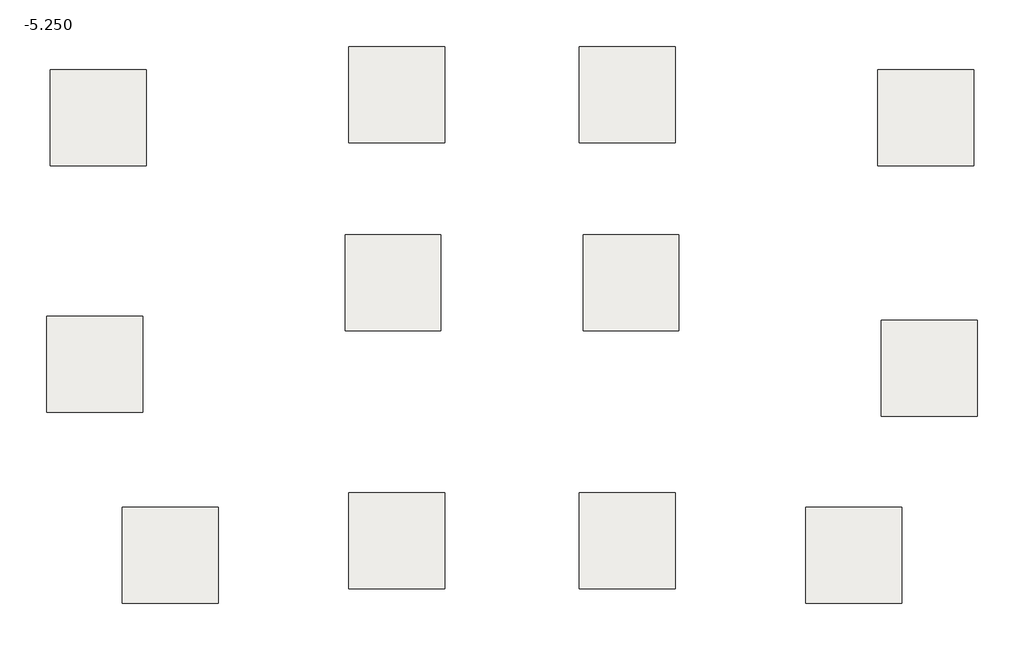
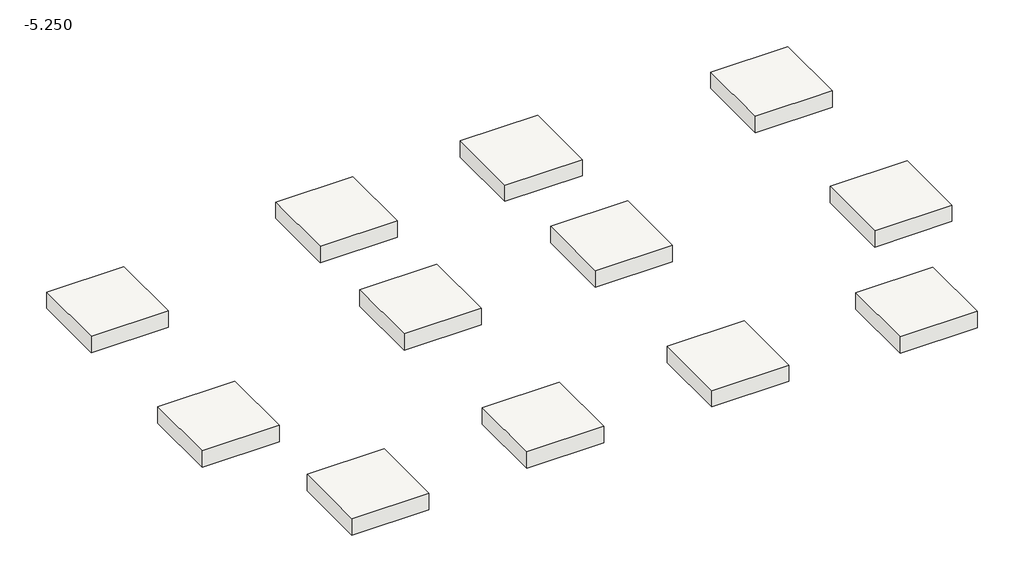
# One storey: 12 slabs.
"""IFC4 building model written with IfcOpenShell, lengths in millimetres."""

from ifc_helpers import new_model, si_unit, origin, place, context, project, spatial, transform, mapped, element, save
from components import dj_d551b5b0

model = new_model("IFC4")

# Units and contexts
model_context = context("Model", 3, world=origin())
ifc_project = project(units=[si_unit("LENGTHUNIT", "METRE", prefix="MILLI")], contexts=[model_context])

# Site, building, storey
site = spatial("IfcSite", under=ifc_project)
building = spatial("IfcBuilding", under=site)
storey = spatial("IfcBuildingStorey", under=building, Name="-5.250", Elevation=-5250.0)

# Slabs
placement = place(None, origin())
dj_shape = dj_d551b5b0(model_context)
element("IfcSlab", 1, ObjectType="独立基础 : DJ", at=placement, inside=storey, context=model_context, shape_type="MappedRepresentation", body=[
    mapped(dj_shape, transform((-7104.5197818, -893.9538269, -5250.0), x_axis=(0.0, 1.0000000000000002, 0.0), y_axis=(-1.0000000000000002, 0.0, 0.0), z_axis=(0.0, 0.0, 1.0))),
])
element("IfcSlab", 2, ObjectType="独立基础 : DJ", at=placement, inside=storey, context=model_context, shape_type="MappedRepresentation", body=[
    mapped(dj_shape, transform((-2144.5197818, -893.9538269, -5250.0), x_axis=(0.0, 1.0000000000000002, 0.0), y_axis=(-1.0000000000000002, 0.0, 0.0), z_axis=(0.0, 0.0, 1.0))),
])
element("IfcSlab", 3, ObjectType="独立基础 : DJ", at=placement, inside=storey, context=model_context, shape_type="MappedRepresentation", body=[
    mapped(dj_shape, transform((-13324.5197818, -2593.9538269, -5250.0), x_axis=(1.0, 0.0, 0.0), y_axis=(0.0, 1.0, 0.0), z_axis=(0.0, 0.0, 1.0))),
])
element("IfcSlab", 4, ObjectType="独立基础 : DJ", at=placement, inside=storey, context=model_context, shape_type="MappedRepresentation", body=[
    mapped(dj_shape, transform((4075.4802182, -2673.9538269, -5250.0), x_axis=(-1.0, 0.0, 0.0), y_axis=(0.0, -1.0, 0.0), z_axis=(0.0, 0.0, 1.0))),
])
element("IfcSlab", 5, ObjectType="独立基础 : DJ", at=placement, inside=storey, context=model_context, shape_type="MappedRepresentation", body=[
    mapped(dj_shape, transform((-13244.5197818, 2546.0461731, -5250.0), x_axis=(1.0, 0.0, 0.0), y_axis=(0.0, 1.0, 0.0), z_axis=(0.0, 0.0, 1.0))),
])
element("IfcSlab", 6, ObjectType="独立基础 : DJ", at=placement, inside=storey, context=model_context, shape_type="MappedRepresentation", body=[
    mapped(dj_shape, transform((3995.4802182, 2546.0461731, -5250.0), x_axis=(-1.0, 0.0, 0.0), y_axis=(0.0, -1.0, 0.0), z_axis=(0.0, 0.0, 1.0))),
])
element("IfcSlab", 7, ObjectType="独立基础 : DJ", at=placement, inside=storey, context=model_context, shape_type="MappedRepresentation", body=[
    mapped(dj_shape, transform((-11744.5197818, -6573.9538269, -5250.0), x_axis=(0.0, 1.0000000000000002, 0.0), y_axis=(-1.0000000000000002, 0.0, 0.0), z_axis=(0.0, 0.0, 1.0))),
])
element("IfcSlab", 8, ObjectType="独立基础 : DJ", at=placement, inside=storey, context=model_context, shape_type="MappedRepresentation", body=[
    mapped(dj_shape, transform((2495.4802182, -6573.9538269, -5250.0), x_axis=(0.0, 1.0000000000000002, 0.0), y_axis=(-1.0000000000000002, 0.0, 0.0), z_axis=(0.0, 0.0, 1.0))),
])
element("IfcSlab", 9, ObjectType="独立基础 : DJ", at=placement, inside=storey, context=model_context, shape_type="MappedRepresentation", body=[
    mapped(dj_shape, transform((-7024.5197818, -6273.9538269, -5250.0), x_axis=(-1.0000000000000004, 0.0, 0.0), y_axis=(0.0, -1.0000000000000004, 0.0), z_axis=(0.0, 0.0, 1.0))),
])
element("IfcSlab", 10, ObjectType="独立基础 : DJ", at=placement, inside=storey, context=model_context, shape_type="MappedRepresentation", body=[
    mapped(dj_shape, transform((-2224.5197818, -6273.9538269, -5250.0), x_axis=(1.0000000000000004, 0.0, 0.0), y_axis=(0.0, 1.0000000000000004, 0.0), z_axis=(0.0, 0.0, 1.0))),
])
element("IfcSlab", 11, ObjectType="独立基础 : DJ", at=placement, inside=storey, context=model_context, shape_type="MappedRepresentation", body=[
    mapped(dj_shape, transform((-7024.5197818, 3026.0461731, -5250.0), x_axis=(-1.0000000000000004, 0.0, 0.0), y_axis=(0.0, -1.0000000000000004, 0.0), z_axis=(0.0, 0.0, 1.0))),
])
element("IfcSlab", 12, ObjectType="独立基础 : DJ", at=placement, inside=storey, context=model_context, shape_type="MappedRepresentation", body=[
    mapped(dj_shape, transform((-2224.5197818, 3026.0461731, -5250.0), x_axis=(1.0000000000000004, 0.0, 0.0), y_axis=(0.0, 1.0000000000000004, 0.0), z_axis=(0.0, 0.0, 1.0))),
])

save(model, "model.ifc")
